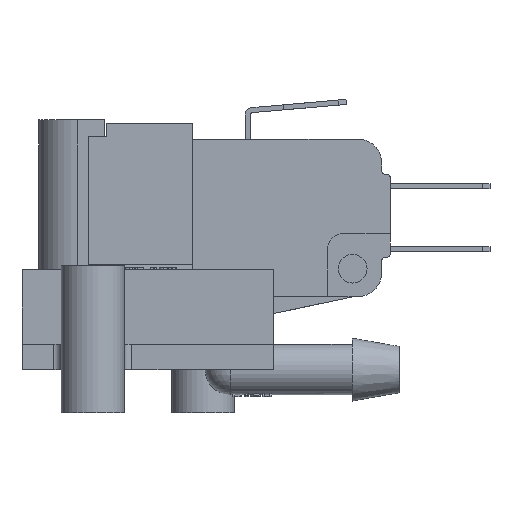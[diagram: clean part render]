
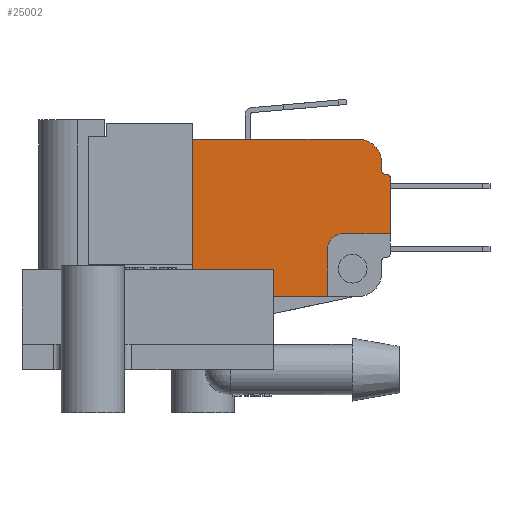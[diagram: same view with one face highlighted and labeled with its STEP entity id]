
A CAD part, left-side view. The second image highlights one B-rep face of the part: STEP entity #25002.
In plain terms, the highlighted planar face has unit normal (-1, 0, 0) as drawn and (0, 0, 1) by its records, which use the part's own axes.
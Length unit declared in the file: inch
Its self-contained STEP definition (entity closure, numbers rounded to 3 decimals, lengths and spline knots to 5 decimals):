
#24273=CARTESIAN_POINT('',(-0.7097,-0.17251,0.1925));
#24274=VERTEX_POINT('',#24273);
#24275=CARTESIAN_POINT('',(-0.7247,-0.15751,0.1925));
#24276=VERTEX_POINT('',#24275);
#24277=CARTESIAN_POINT('',(-0.7097,-0.15751,0.1925));
#24278=DIRECTION('',(0.0,0.0,-1.));
#24279=DIRECTION('',(-0.707,-0.707,0.0));
#24280=AXIS2_PLACEMENT_3D('',#24277,#24278,#24279);
#24281=CIRCLE('',#24280,0.015);
#24282=EDGE_CURVE('',#24274,#24276,#24281,.T.);
#24324=CARTESIAN_POINT('',(-0.7047,-0.17251,0.1925));
#24325=VERTEX_POINT('',#24324);
#24332=CARTESIAN_POINT('',(-0.7097,-0.17251,0.1925));
#24333=DIRECTION('',(1.0,0.0,0.0));
#24334=VECTOR('',#24333,0.005);
#24335=LINE('',#24332,#24334);
#24336=EDGE_CURVE('',#24274,#24325,#24335,.T.);
#24545=CARTESIAN_POINT('',(-0.6897,-0.18751,0.1925));
#24546=VERTEX_POINT('',#24545);
#24553=CARTESIAN_POINT('',(-0.7047,-0.18751,0.1925));
#24554=DIRECTION('',(0.0,0.0,1.));
#24555=DIRECTION('',(0.707,0.707,0.0));
#24556=AXIS2_PLACEMENT_3D('',#24553,#24554,#24555);
#24557=CIRCLE('',#24556,0.015);
#24558=EDGE_CURVE('',#24546,#24325,#24557,.T.);
#24571=CARTESIAN_POINT('',(-0.6897,-0.21871,0.1925));
#24572=VERTEX_POINT('',#24571);
#24579=CARTESIAN_POINT('',(-0.6897,-0.18751,0.1925));
#24580=DIRECTION('',(0.0,-1.0,0.0));
#24581=VECTOR('',#24580,0.0312);
#24582=LINE('',#24579,#24581);
#24583=EDGE_CURVE('',#24546,#24572,#24582,.T.);
#24729=CARTESIAN_POINT('',(-0.5967,-0.31171,0.1925));
#24730=VERTEX_POINT('',#24729);
#24737=CARTESIAN_POINT('',(-0.5967,-0.21871,0.1925));
#24738=DIRECTION('',(0.0,0.0,-1.));
#24739=DIRECTION('',(-0.707,-0.707,0.0));
#24740=AXIS2_PLACEMENT_3D('',#24737,#24738,#24739);
#24741=CIRCLE('',#24740,0.093);
#24742=EDGE_CURVE('',#24730,#24572,#24741,.T.);
#24843=CARTESIAN_POINT('',(-0.4747,0.31329,0.1925));
#24844=VERTEX_POINT('',#24843);
#24851=CARTESIAN_POINT('',(0.3173,0.31329,0.1925));
#24852=VERTEX_POINT('',#24851);
#24853=CARTESIAN_POINT('',(-0.4747,0.31329,0.1925));
#24854=DIRECTION('',(1.0,0.0,0.0));
#24855=VECTOR('',#24854,0.792);
#24856=LINE('',#24853,#24855);
#24857=EDGE_CURVE('',#24844,#24852,#24856,.T.);
#24910=CARTESIAN_POINT('',(-0.15786,0.00153,0.1925));
#24911=DIRECTION('',(0.0,0.0,1.0));
#24912=DIRECTION('',(1.0,0.0,0.0));
#24913=AXIS2_PLACEMENT_3D('',#24910,#24911,#24912);
#24914=PLANE('',#24913);
#24915=ORIENTED_EDGE('',*,*,#24282,.F.);
#24916=ORIENTED_EDGE('',*,*,#24336,.T.);
#24917=ORIENTED_EDGE('',*,*,#24558,.F.);
#24918=ORIENTED_EDGE('',*,*,#24583,.T.);
#24919=ORIENTED_EDGE('',*,*,#24742,.F.);
#24920=CARTESIAN_POINT('',(0.1503,-0.31171,0.1925));
#24921=VERTEX_POINT('',#24920);
#24922=CARTESIAN_POINT('',(0.1503,-0.31171,0.1925));
#24923=DIRECTION('',(-1.0,0.0,0.0));
#24924=VECTOR('',#24923,0.747);
#24925=LINE('',#24922,#24924);
#24926=EDGE_CURVE('',#24921,#24730,#24925,.T.);
#24927=ORIENTED_EDGE('',*,*,#24926,.F.);
#24928=CARTESIAN_POINT('',(0.1503,-0.12171,0.1925));
#24929=VERTEX_POINT('',#24928);
#24930=CARTESIAN_POINT('',(0.1503,-0.31171,0.1925));
#24931=DIRECTION('',(0.0,1.0,0.0));
#24932=VECTOR('',#24931,0.19);
#24933=LINE('',#24930,#24932);
#24934=EDGE_CURVE('',#24921,#24929,#24933,.T.);
#24935=ORIENTED_EDGE('',*,*,#24934,.T.);
#24936=CARTESIAN_POINT('',(0.2103,-0.06171,0.1925));
#24937=VERTEX_POINT('',#24936);
#24938=CARTESIAN_POINT('',(0.2103,-0.12171,0.1925));
#24939=DIRECTION('',(0.0,0.0,-1.0));
#24940=DIRECTION('',(0.0,1.0,0.0));
#24941=AXIS2_PLACEMENT_3D('',#24938,#24939,#24940);
#24942=CIRCLE('',#24941,0.06);
#24943=EDGE_CURVE('',#24929,#24937,#24942,.T.);
#24944=ORIENTED_EDGE('',*,*,#24943,.T.);
#24945=CARTESIAN_POINT('',(0.4103,-0.06171,0.1925));
#24946=VERTEX_POINT('',#24945);
#24947=CARTESIAN_POINT('',(0.2103,-0.06171,0.1925));
#24948=DIRECTION('',(1.0,0.0,0.0));
#24949=VECTOR('',#24948,0.2);
#24950=LINE('',#24947,#24949);
#24951=EDGE_CURVE('',#24937,#24946,#24950,.T.);
#24952=ORIENTED_EDGE('',*,*,#24951,.T.);
#24953=CARTESIAN_POINT('',(0.4103,0.22029,0.1925));
#24954=VERTEX_POINT('',#24953);
#24955=CARTESIAN_POINT('',(0.4103,0.22029,0.1925));
#24956=DIRECTION('',(0.0,-1.0,0.0));
#24957=VECTOR('',#24956,0.282);
#24958=LINE('',#24955,#24957);
#24959=EDGE_CURVE('',#24954,#24946,#24958,.T.);
#24960=ORIENTED_EDGE('',*,*,#24959,.F.);
#24961=CARTESIAN_POINT('',(0.3173,0.22029,0.1925));
#24962=DIRECTION('',(0.0,0.0,-1.));
#24963=DIRECTION('',(0.707,0.707,0.0));
#24964=AXIS2_PLACEMENT_3D('',#24961,#24962,#24963);
#24965=CIRCLE('',#24964,0.093);
#24966=EDGE_CURVE('',#24852,#24954,#24965,.T.);
#24967=ORIENTED_EDGE('',*,*,#24966,.F.);
#24968=ORIENTED_EDGE('',*,*,#24857,.F.);
#24969=CARTESIAN_POINT('',(-0.4747,0.12329,0.1925));
#24970=VERTEX_POINT('',#24969);
#24971=CARTESIAN_POINT('',(-0.4747,0.31329,0.1925));
#24972=DIRECTION('',(0.0,-1.0,0.0));
#24973=VECTOR('',#24972,0.19);
#24974=LINE('',#24971,#24973);
#24975=EDGE_CURVE('',#24844,#24970,#24974,.T.);
#24976=ORIENTED_EDGE('',*,*,#24975,.T.);
#24977=CARTESIAN_POINT('',(-0.5347,0.06329,0.1925));
#24978=VERTEX_POINT('',#24977);
#24979=CARTESIAN_POINT('',(-0.5347,0.12329,0.1925));
#24980=DIRECTION('',(0.0,0.0,-1.0));
#24981=DIRECTION('',(0.0,-1.0,0.0));
#24982=AXIS2_PLACEMENT_3D('',#24979,#24980,#24981);
#24983=CIRCLE('',#24982,0.06);
#24984=EDGE_CURVE('',#24970,#24978,#24983,.T.);
#24985=ORIENTED_EDGE('',*,*,#24984,.T.);
#24986=CARTESIAN_POINT('',(-0.7247,0.06329,0.1925));
#24987=VERTEX_POINT('',#24986);
#24988=CARTESIAN_POINT('',(-0.5347,0.06329,0.1925));
#24989=DIRECTION('',(-1.0,0.0,0.0));
#24990=VECTOR('',#24989,0.19);
#24991=LINE('',#24988,#24990);
#24992=EDGE_CURVE('',#24978,#24987,#24991,.T.);
#24993=ORIENTED_EDGE('',*,*,#24992,.T.);
#24994=CARTESIAN_POINT('',(-0.7247,-0.15751,0.1925));
#24995=DIRECTION('',(0.0,1.0,0.0));
#24996=VECTOR('',#24995,0.2208);
#24997=LINE('',#24994,#24996);
#24998=EDGE_CURVE('',#24276,#24987,#24997,.T.);
#24999=ORIENTED_EDGE('',*,*,#24998,.F.);
#25000=EDGE_LOOP('',(#24915,#24916,#24917,#24918,#24919,#24927,#24935,#24944,#24952,#24960,#24967,#24968,#24976,#24985,#24993,#24999));
#25001=FACE_OUTER_BOUND('',#25000,.T.);
#25002=ADVANCED_FACE('',(#25001),#24914,.T.);
